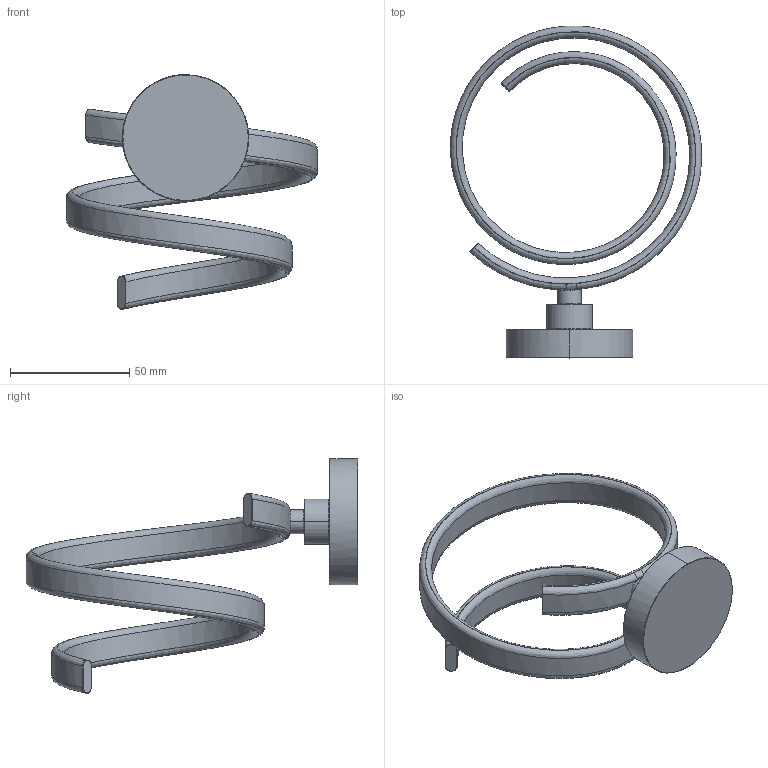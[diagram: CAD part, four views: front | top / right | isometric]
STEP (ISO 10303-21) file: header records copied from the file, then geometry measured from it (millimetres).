
FILE_DESCRIPTION(('THIS FILE CONTAINS SOME STEP INSTANCES'),'1');
FILE_NAME('HAR 045-light.stp','2015-11-18T 8:50:00',('UNDEFINED'),('UNDEFINED'),'T-FLEX CAD STEP converter','T-FLEX CAD','');
FILE_SCHEMA(('CONFIG_CONTROL_DESIGN'));
Length unit declared in the file: metre
Products named in the file (1): har_045
Bounding box: 105.26 x 139.14 x 98.46 mm (x, y, z)
Volume: 63721.9 mm3; surface area: 24804.6 mm2
Topology: 1 solids, 1 shells, 58 faces, 134 edges, 80 vertices
Faces by surface type: bspline 33, cone 10, plane 9, cylinder 6
Entity records: 19295 total; most frequent: CARTESIAN_POINT 18332, ORIENTED_EDGE 268, EDGE_CURVE 134, B_SPLINE_CURVE_WITH_KNOTS 88, VERTEX_POINT 80, DIRECTION 78, EDGE_LOOP 60, ADVANCED_FACE 58
